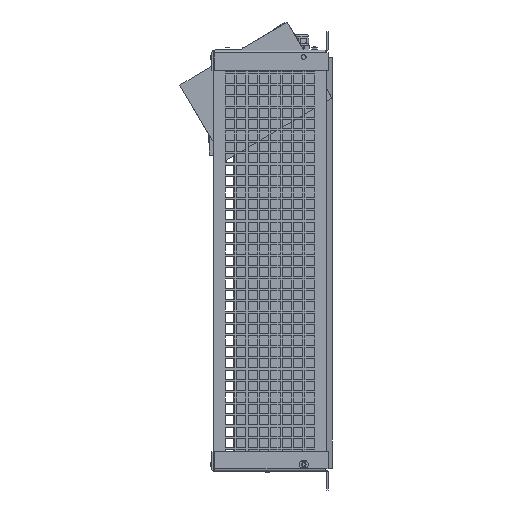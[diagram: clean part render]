
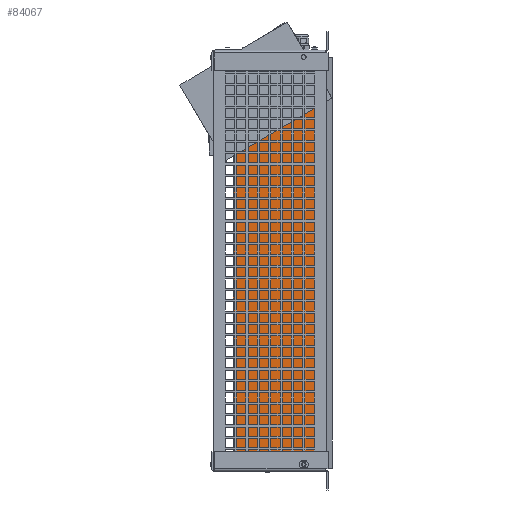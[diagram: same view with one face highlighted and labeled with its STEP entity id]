
A CAD part, left-side view. The second image highlights one B-rep face of the part: STEP entity #84067.
In plain terms, the highlighted planar face has unit normal (-1, 0, 0).
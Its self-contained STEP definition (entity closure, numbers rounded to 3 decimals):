
#2566=FACE_OUTER_BOUND('',#6735,.T.);
#6735=EDGE_LOOP('',(#54828,#54829,#54830,#54831,#54832,#54833));
#13295=LINE('',#115281,#24287);
#13296=LINE('',#115283,#24288);
#13297=LINE('',#115285,#24289);
#13298=LINE('',#115287,#24290);
#13299=LINE('',#115289,#24291);
#13300=LINE('',#115290,#24292);
#24287=VECTOR('',#94147,10.);
#24288=VECTOR('',#94148,10.);
#24289=VECTOR('',#94149,10.);
#24290=VECTOR('',#94150,10.);
#24291=VECTOR('',#94151,10.);
#24292=VECTOR('',#94152,10.);
#35226=VERTEX_POINT('',#115279);
#35227=VERTEX_POINT('',#115280);
#35228=VERTEX_POINT('',#115282);
#35229=VERTEX_POINT('',#115284);
#35230=VERTEX_POINT('',#115286);
#35231=VERTEX_POINT('',#115288);
#42990=EDGE_CURVE('',#35226,#35227,#13295,.T.);
#42991=EDGE_CURVE('',#35228,#35227,#13296,.T.);
#42992=EDGE_CURVE('',#35229,#35228,#13297,.T.);
#42993=EDGE_CURVE('',#35230,#35229,#13298,.T.);
#42994=EDGE_CURVE('',#35231,#35230,#13299,.T.);
#42995=EDGE_CURVE('',#35226,#35231,#13300,.T.);
#54828=ORIENTED_EDGE('',*,*,#42990,.T.);
#54829=ORIENTED_EDGE('',*,*,#42991,.F.);
#54830=ORIENTED_EDGE('',*,*,#42992,.F.);
#54831=ORIENTED_EDGE('',*,*,#42993,.F.);
#54832=ORIENTED_EDGE('',*,*,#42994,.F.);
#54833=ORIENTED_EDGE('',*,*,#42995,.F.);
#76483=PLANE('',#88169);
#84067=ADVANCED_FACE('',(#2566),#76483,.F.);
#88169=AXIS2_PLACEMENT_3D('',#115278,#94145,#94146);
#94145=DIRECTION('center_axis',(1.,0.,0.));
#94146=DIRECTION('ref_axis',(0.,0.,
1.));
#94147=DIRECTION('',(0.,0.,-1.));
#94148=DIRECTION('',(0.,1.,0.));
#94149=DIRECTION('',(0.,1.,0.));
#94150=DIRECTION('',(0.,1.,0.));
#94151=DIRECTION('',(0.,0.,-1.));
#94152=DIRECTION('',(0.,-1.,0.));
#115278=CARTESIAN_POINT('Origin',(-60.16,13.046,0.326));
#115279=CARTESIAN_POINT('',(-60.16,58.084,203.826));
#115280=CARTESIAN_POINT('',(-60.16,58.084,-203.174));
#115281=CARTESIAN_POINT('',(-60.16,58.084,0.326));
#115282=CARTESIAN_POINT('',(-60.16,34.158,-203.174));
#115283=CARTESIAN_POINT('',(-60.16,13.046,-203.174));
#115284=CARTESIAN_POINT('',(-60.16,9.158,-203.174));
#115285=CARTESIAN_POINT('',(-60.16,13.046,-203.174));
#115286=CARTESIAN_POINT('',(-60.16,-31.992,-203.174));
#115287=CARTESIAN_POINT('',(-60.16,13.046,-203.174));
#115288=CARTESIAN_POINT('',(-60.16,-31.992,203.826));
#115289=CARTESIAN_POINT('',(-60.16,-31.992,0.326));
#115290=CARTESIAN_POINT('',(-60.16,13.046,203.826));
